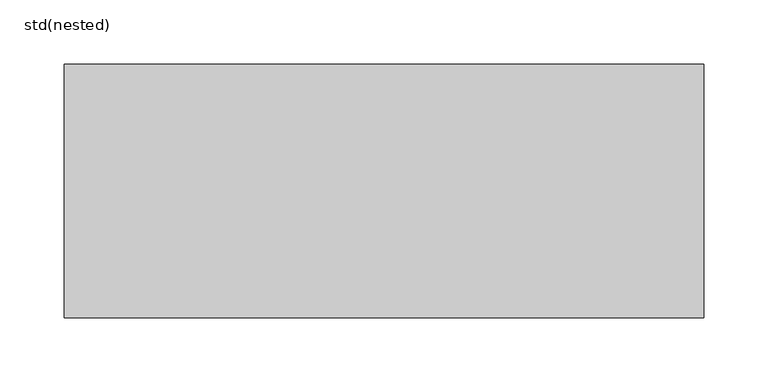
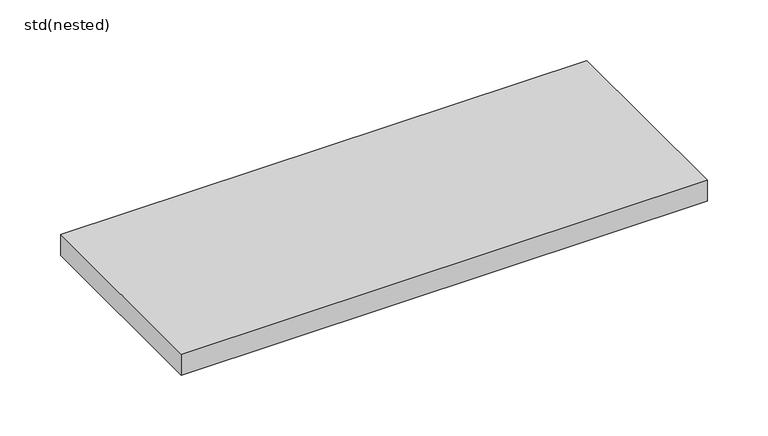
"""IFC4 building model written with IfcOpenShell, lengths in millimetres: sanitary terminal geometry, ZZZ_do not use_PF_SS_WPB_ Mesh grating 500x198_ACO : std(nested)."""

from ifc_helpers import new_model, si_unit, origin, origin_with_axes, place, context, project, spatial, polyline, outline, extrude, source, transform, mapped, element, save


def std_nested_e467a67c(model_context):
    return source(origin(), model_context, "Body", "SweptSolid", [
        extrude(outline(polyline([(249.75, 99.0), (249.75, -99.0), (-249.75, -99.0), (-249.75, 99.0), (249.75, 99.0)])), origin_with_axes(), (0.0, 0.0, 1.0), 21.0),
    ])


if __name__ == "__main__":
    model = new_model("IFC4")
    model_context = context("Model", 3, world=origin())
    ifc_project = project(units=[si_unit("LENGTHUNIT", "METRE", prefix="MILLI")], contexts=[model_context])
    site = spatial("IfcSite", under=ifc_project)
    building = spatial("IfcBuilding", under=site)
    placement = place(None, origin())
    std_nested_shape = std_nested_e467a67c(model_context)
    element("IfcSanitaryTerminal", 1, ObjectType="ZZZ_do not use_PF_SS_WPB_ Mesh grating 500x198_ACO : std(nested)", at=placement, inside=building, context=model_context, shape_type="MappedRepresentation", body=[
        mapped(std_nested_shape, transform((0.0, 0.0, 0.0), x_axis=(1.0, 0.0, 0.0), y_axis=(0.0, 1.0, 0.0), z_axis=(0.0, 0.0, 1.0))),
    ])
    save(model, "model.ifc")
